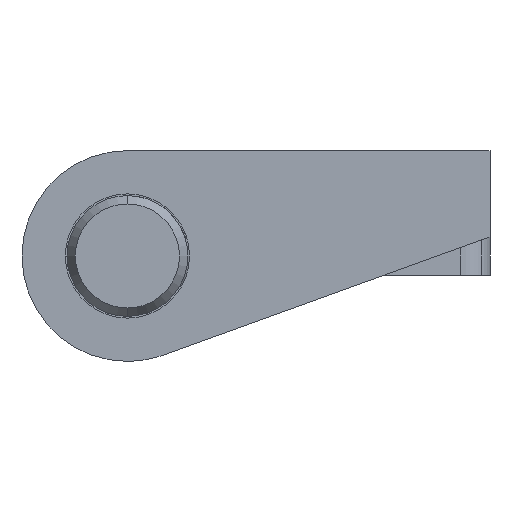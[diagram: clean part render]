
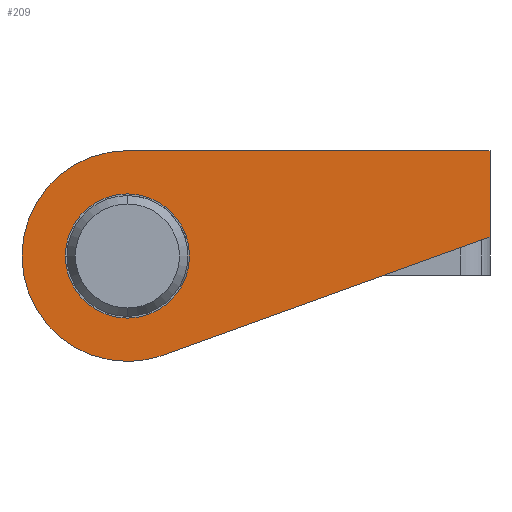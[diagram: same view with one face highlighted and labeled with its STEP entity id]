
A CAD part, left-side view. The second image highlights one B-rep face of the part: STEP entity #209.
In plain terms, the highlighted planar face has unit normal (-1, 0, 0).
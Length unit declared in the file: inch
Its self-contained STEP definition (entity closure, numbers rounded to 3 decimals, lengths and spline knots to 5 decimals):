
#209=ADVANCED_FACE('',(#445,#446),#447,.F.);
#445=FACE_BOUND('',#718,.T.);
#446=FACE_OUTER_BOUND('',#719,.T.);
#447=PLANE('',#720);
#718=EDGE_LOOP('',(#1232,#1233));
#719=EDGE_LOOP('',(#1234,#1235,#1236,#1237,#1238));
#720=AXIS2_PLACEMENT_3D('',#1239,#1240,#1241);
#1232=ORIENTED_EDGE('',*,*,#1776,.T.);
#1233=ORIENTED_EDGE('',*,*,#1768,.T.);
#1234=ORIENTED_EDGE('',*,*,#1594,.F.);
#1235=ORIENTED_EDGE('',*,*,#1778,.F.);
#1236=ORIENTED_EDGE('',*,*,#1779,.F.);
#1237=ORIENTED_EDGE('',*,*,#1603,.F.);
#1238=ORIENTED_EDGE('',*,*,#1651,.F.);
#1239=CARTESIAN_POINT('',(-1.45806,-4.63102,0.02344));
#1240=DIRECTION('',(1.0,0.0,0.));
#1241=DIRECTION('',(0.,0.0,-1.0));
#1594=EDGE_CURVE('',#1904,#1906,#1907,.T.);
#1603=EDGE_CURVE('',#1919,#1922,#1923,.T.);
#1651=EDGE_CURVE('',#1906,#1919,#2002,.T.);
#1768=EDGE_CURVE('',#2183,#2181,#2184,.T.);
#1776=EDGE_CURVE('',#2181,#2183,#2192,.T.);
#1778=EDGE_CURVE('',#2194,#1904,#2195,.T.);
#1779=EDGE_CURVE('',#1922,#2194,#2196,.T.);
#1904=VERTEX_POINT('',#2354);
#1906=VERTEX_POINT('',#2357);
#1907=LINE('',#2358,#2359);
#1919=VERTEX_POINT('',#2384);
#1922=VERTEX_POINT('',#2388);
#1923=CIRCLE('',#2389,0.109);
#2002=CIRCLE('',#2516,0.109);
#2181=VERTEX_POINT('',#2763);
#2183=VERTEX_POINT('',#2766);
#2184=CIRCLE('',#2767,0.06425);
#2192=CIRCLE('',#2776,0.06425);
#2194=VERTEX_POINT('',#2778);
#2195=LINE('',#2779,#2780);
#2196=LINE('',#2781,#2782);
#2354=CARTESIAN_POINT('',(-1.45806,-4.875,0.01969));
#2357=CARTESIAN_POINT('',(-1.45806,-4.53706,-0.10251));
#2358=CARTESIAN_POINT('',(-1.45806,-4.875,0.01969));
#2359=VECTOR('',#2929,0.3937);
#2384=CARTESIAN_POINT('',(-1.45806,-4.5,-0.109));
#2388=CARTESIAN_POINT('',(-1.45806,-4.5,0.109));
#2389=AXIS2_PLACEMENT_3D('',#2934,#2935,#2936);
#2516=AXIS2_PLACEMENT_3D('',#3001,#3002,#3003);
#2763=CARTESIAN_POINT('',(-1.45806,-4.5,-0.06425));
#2766=CARTESIAN_POINT('',(-1.45806,-4.5,0.06425));
#2767=AXIS2_PLACEMENT_3D('',#3173,#3174,#3175);
#2776=AXIS2_PLACEMENT_3D('',#3186,#3187,#3188);
#2778=CARTESIAN_POINT('',(-1.45806,-4.875,0.109));
#2779=CARTESIAN_POINT('',(-1.45806,-4.875,0.109));
#2780=VECTOR('',#3189,0.3937);
#2781=CARTESIAN_POINT('',(-1.45806,-4.5,0.109));
#2782=VECTOR('',#3190,0.3937);
#2929=DIRECTION('',(0.,0.94,-0.34));
#2934=CARTESIAN_POINT('',(-1.45806,-4.5,0.));
#2935=DIRECTION('',(1.0,0.0,0.));
#2936=DIRECTION('',(0.,0.0,-1.0));
#3001=CARTESIAN_POINT('',(-1.45806,-4.5,0.));
#3002=DIRECTION('',(1.0,0.0,0.));
#3003=DIRECTION('',(0.,0.0,-1.0));
#3173=CARTESIAN_POINT('',(-1.45806,-4.5,0.));
#3174=DIRECTION('',(1.0,0.0,0.));
#3175=DIRECTION('',(0.,0.0,-1.0));
#3186=CARTESIAN_POINT('',(-1.45806,-4.5,0.));
#3187=DIRECTION('',(1.0,0.0,0.));
#3188=DIRECTION('',(0.,0.0,-1.0));
#3189=DIRECTION('',(0.,0.0,-1.0));
#3190=DIRECTION('',(0.,-1.0,0.));
